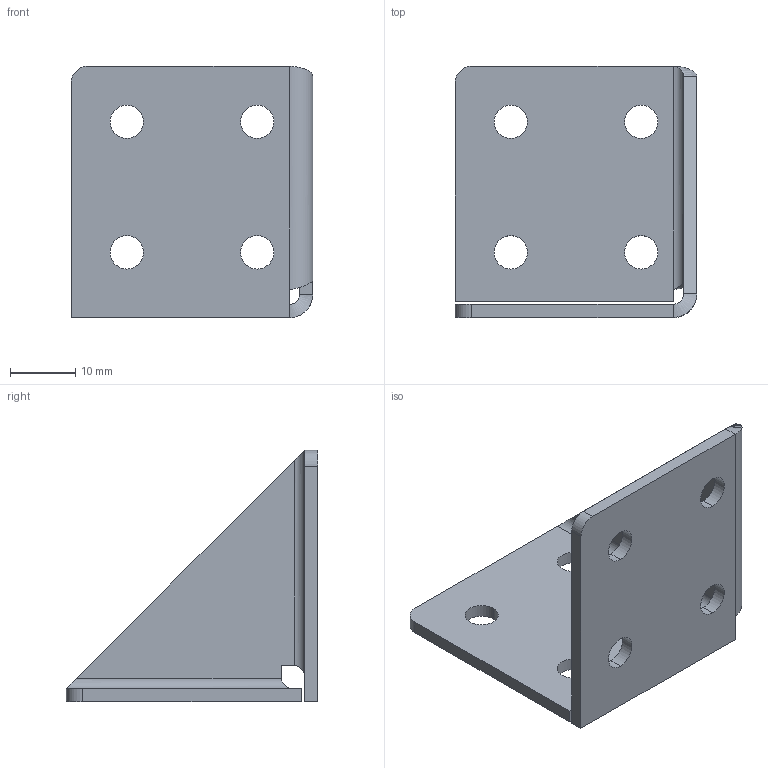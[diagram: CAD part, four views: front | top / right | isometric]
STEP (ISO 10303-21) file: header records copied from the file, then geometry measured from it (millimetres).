
FILE_DESCRIPTION (( 'STEP AP214' ), '1' );
FILE_NAME ('8006s.STEP', '2015-03-29T07:59:45', ( '' ), ( '' ), 'SwSTEP 2.0', 'SolidWorks 2014', '' );
FILE_SCHEMA (( 'AUTOMOTIVE_DESIGN' ));
Length unit declared in the file: millimetre
Products named in the file (1): 8006s
Bounding box: 37 x 38.5 x 38.5 mm (x, y, z)
Volume: 6283.4 mm3; surface area: 7101.4 mm2
Topology: 1 solids, 1 shells, 43 faces, 107 edges, 66 vertices
Faces by surface type: cylinder 22, plane 17, bspline 4
Entity records: 1431 total; most frequent: CARTESIAN_POINT 355, ORIENTED_EDGE 214, DIRECTION 211, EDGE_CURVE 107, AXIS2_PLACEMENT_3D 76, VERTEX_POINT 66, EDGE_LOOP 59, VECTOR 59
